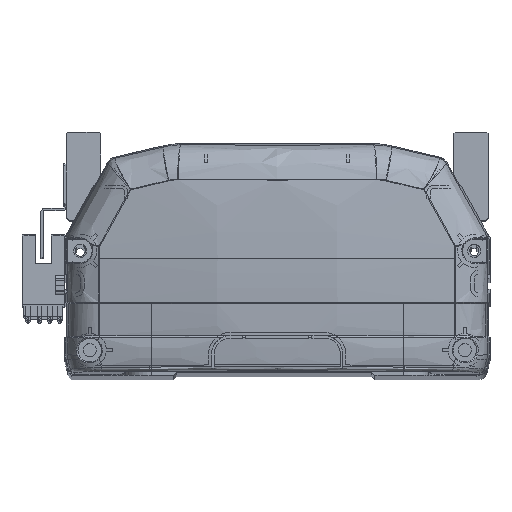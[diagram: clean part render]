
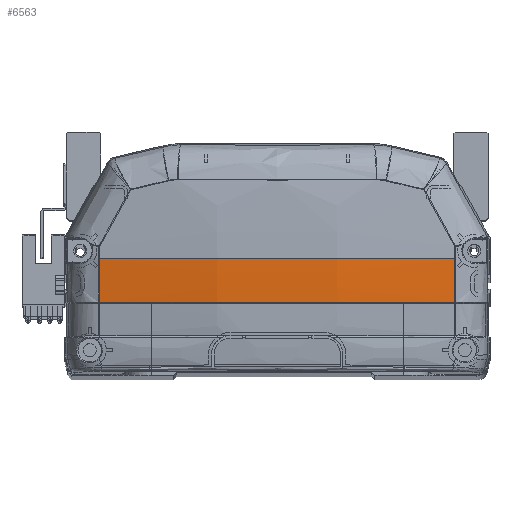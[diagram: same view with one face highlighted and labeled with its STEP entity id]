
A CAD part, top view. The second image highlights one B-rep face of the part: STEP entity #6563.
In plain terms, the highlighted free-form (B-spline) face has degree [3, 3] with [4, 4] control points.
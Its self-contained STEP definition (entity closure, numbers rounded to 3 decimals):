
#1666 = CARTESIAN_POINT ( 'NONE',  ( 56.652, 26.806, -5.044 ) ) ;
#1887 = CARTESIAN_POINT ( 'NONE',  ( 57.335, 31.38, -5.042 ) ) ;
#3046 = CARTESIAN_POINT ( 'NONE',  ( -19.295, 26.549, -11.419 ) ) ;
#4131 = CARTESIAN_POINT ( 'NONE',  ( -56.647, 36., -5.158 ) ) ;
#4529 = ORIENTED_EDGE ( 'NONE', *, *, #13671, .F. ) ;
#6563 = ADVANCED_FACE ( 'NONE', ( #30206 ), #32694, .T. ) ;
#7050 = ORIENTED_EDGE ( 'NONE', *, *, #16096, .F. ) ;
#7291 = CARTESIAN_POINT ( 'NONE',  ( 19.295, 36., -11.535 ) ) ;
#7306 = CARTESIAN_POINT ( 'NONE',  ( 8.363, 22.225, -9.48 ) ) ;
#7577 = AXIS2_PLACEMENT_3D ( 'NONE', #35340, #38639, #39109 ) ;
#7750 = VERTEX_POINT ( 'NONE', #19821 ) ;
#7765 = CARTESIAN_POINT ( 'NONE',  ( 56.661, 22.225, -4.818 ) ) ;
#9979 = VERTEX_POINT ( 'NONE', #46374 ) ;
#10909 = VERTEX_POINT ( 'NONE', #4131 ) ;
#11470 = DIRECTION ( 'NONE',  ( 0., 0., -1. ) ) ;
#12299 = ORIENTED_EDGE ( 'NONE', *, *, #34564, .T. ) ;
#13671 = EDGE_CURVE ( 'NONE', #7750, #9979, #23635, .T. ) ;
#13938 = CARTESIAN_POINT ( 'NONE',  ( -56.661, 22.225, -4.818 ) ) ;
#14320 = CARTESIAN_POINT ( 'NONE',  ( 47.432, 22.225, -6.377 ) ) ;
#14905 = CARTESIAN_POINT ( 'NONE',  ( 0., 36., 330.833 ) ) ;
#15390 = CARTESIAN_POINT ( 'NONE',  ( -19.28, 22.225, -9.565 ) ) ;
#16096 = EDGE_CURVE ( 'NONE', #9979, #10909, #39829, .T. ) ;
#17201 = CARTESIAN_POINT ( 'NONE',  ( -56.652, 26.814, -5.045 ) ) ;
#17587 = CARTESIAN_POINT ( 'NONE',  ( -57.335, 36., -5.042 ) ) ;
#18836 = CARTESIAN_POINT ( 'NONE',  ( -38.235, 22.225, -7.93 ) ) ;
#19708 = CARTESIAN_POINT ( 'NONE',  ( 57.335, 26.762, -4.928 ) ) ;
#19821 = CARTESIAN_POINT ( 'NONE',  ( 56.647, 35.969, -5.158 ) ) ;
#20105 = VERTEX_POINT ( 'NONE', #32156 ) ;
#20481 = CARTESIAN_POINT ( 'NONE',  ( 56.661, 22.225, -4.818 ) ) ;
#21032 = CARTESIAN_POINT ( 'NONE',  ( -19.295, 31.274, -11.535 ) ) ;
#23116 = CARTESIAN_POINT ( 'NONE',  ( 57.335, 22.148, -4.7 ) ) ;
#23209 = VERTEX_POINT ( 'NONE', #20481 ) ;
#23635 = CIRCLE ( 'NONE', #7577, 6395.966 ) ;
#24445 = CARTESIAN_POINT ( 'NONE',  ( 19.295, 31.274, -11.535 ) ) ;
#25091 = CARTESIAN_POINT ( 'NONE',  ( 23.877, 22.225, -8.763 ) ) ;
#25104 = EDGE_CURVE ( 'NONE', #10909, #20105, #32721, .T. ) ;
#25246 = CARTESIAN_POINT ( 'NONE',  ( 4.761, 22.225, -9.537 ) ) ;
#26731 = CARTESIAN_POINT ( 'NONE',  ( 57.335, 36., -5.042 ) ) ;
#26922 = CARTESIAN_POINT ( 'NONE',  ( 56.661, 22.225, -4.818 ) ) ;
#27794 = EDGE_LOOP ( 'NONE', ( #7050, #4529, #29525, #12299, #45334 ) ) ;
#28463 = CARTESIAN_POINT ( 'NONE',  ( -56.647, 31.405, -5.158 ) ) ;
#28690 = CARTESIAN_POINT ( 'NONE',  ( 11.954, 22.225, -9.367 ) ) ;
#28891 = EDGE_CURVE ( 'NONE', #23209, #7750, #37275, .T. ) ;
#29525 = ORIENTED_EDGE ( 'NONE', *, *, #28891, .F. ) ;
#30206 = FACE_OUTER_BOUND ( 'NONE', #27794, .T. ) ;
#30532 = CARTESIAN_POINT ( 'NONE',  ( 56.647, 31.387, -5.158 ) ) ;
#31850 = CARTESIAN_POINT ( 'NONE',  ( 19.295, 26.549, -11.419 ) ) ;
#32156 = CARTESIAN_POINT ( 'NONE',  ( -56.661, 22.225, -4.818 ) ) ;
#32694 =( BOUNDED_SURFACE ( )  B_SPLINE_SURFACE ( 3, 3, ( 
 ( #23116, #19708, #1887, #26731 ),
 ( #46227, #31850, #24445, #7291 ),
 ( #35305, #3046, #21032, #45939 ),
 ( #39231, #42806, #46077, #17587 ) ),
 .UNSPECIFIED., .F., .F., .F. ) 
 B_SPLINE_SURFACE_WITH_KNOTS ( ( 4, 4 ),
 ( 4, 4 ),
 ( 0., 1. ),
 ( 0., 1. ),
 .UNSPECIFIED. ) 
 GEOMETRIC_REPRESENTATION_ITEM ( )  RATIONAL_B_SPLINE_SURFACE ( (
 ( 1., 1., 1., 1.),
 ( 0.99, 0.99, 0.99, 0.99),
 ( 0.99, 0.99, 0.99, 0.99),
 ( 1., 1., 1., 1.) ) ) 
 REPRESENTATION_ITEM ( '' )  SURFACE ( )  );
#32721 = B_SPLINE_CURVE_WITH_KNOTS ( 'NONE', 3,
 ( #38826, #28463, #17201, #13938 ),
 .UNSPECIFIED., .F., .F.,
 ( 4, 4 ),
 ( 0., 1. ),
 .UNSPECIFIED. ) ;
#32955 = CARTESIAN_POINT ( 'NONE',  ( -56.661, 22.225, -4.818 ) ) ;
#33256 = CARTESIAN_POINT ( 'NONE',  ( 2.357, 22.225, -9.562 ) ) ;
#34564 = EDGE_CURVE ( 'NONE', #23209, #20105, #36297, .T. ) ;
#35305 = CARTESIAN_POINT ( 'NONE',  ( -19.295, 21.828, -11.186 ) ) ;
#35340 = CARTESIAN_POINT ( 'NONE',  ( 6452.613, 35.969, -5.158 ) ) ;
#36297 = B_SPLINE_CURVE_WITH_KNOTS ( 'NONE', 3,
 ( #7765, #14320, #46404, #25091, #39390, #28690, #7306, #25246, #33256, #36432, #15390, #18836, #32955 ),
 .UNSPECIFIED., .F., .F.,
 ( 4, 2, 2, 1, 2, 2, 4 ),
 ( 0., 0.25, 0.375, 0.438, 0.469, 0.5, 1. ),
 .UNSPECIFIED. ) ;
#36432 = CARTESIAN_POINT ( 'NONE',  ( 1.152, 22.225, -9.568 ) ) ;
#37275 = B_SPLINE_CURVE_WITH_KNOTS ( 'NONE', 3,
 ( #26922, #1666, #30532, #44369 ),
 .UNSPECIFIED., .F., .F.,
 ( 4, 4 ),
 ( 0., 1. ),
 .UNSPECIFIED. ) ;
#38639 = DIRECTION ( 'NONE',  ( 0., 0., -1. ) ) ;
#38826 = CARTESIAN_POINT ( 'NONE',  ( -56.647, 36., -5.158 ) ) ;
#38844 = AXIS2_PLACEMENT_3D ( 'NONE', #14905, #43719, #11470 ) ;
#39109 = DIRECTION ( 'NONE',  ( -1., 0., 0. ) ) ;
#39231 = CARTESIAN_POINT ( 'NONE',  ( -57.335, 22.148, -4.7 ) ) ;
#39390 = CARTESIAN_POINT ( 'NONE',  ( 19.121, 22.225, -9.064 ) ) ;
#39829 = CIRCLE ( 'NONE', #38844, 340.733 ) ;
#42806 = CARTESIAN_POINT ( 'NONE',  ( -57.335, 26.762, -4.928 ) ) ;
#43719 = DIRECTION ( 'NONE',  ( 0., 1., 0. ) ) ;
#44369 = CARTESIAN_POINT ( 'NONE',  ( 56.647, 35.969, -5.158 ) ) ;
#45334 = ORIENTED_EDGE ( 'NONE', *, *, #25104, .F. ) ;
#45939 = CARTESIAN_POINT ( 'NONE',  ( -19.295, 36., -11.535 ) ) ;
#46077 = CARTESIAN_POINT ( 'NONE',  ( -57.335, 31.38, -5.042 ) ) ;
#46227 = CARTESIAN_POINT ( 'NONE',  ( 19.295, 21.828, -11.186 ) ) ;
#46374 = CARTESIAN_POINT ( 'NONE',  ( 56.647, 36., -5.158 ) ) ;
#46404 = CARTESIAN_POINT ( 'NONE',  ( 38.071, 22.225, -7.566 ) ) ;
